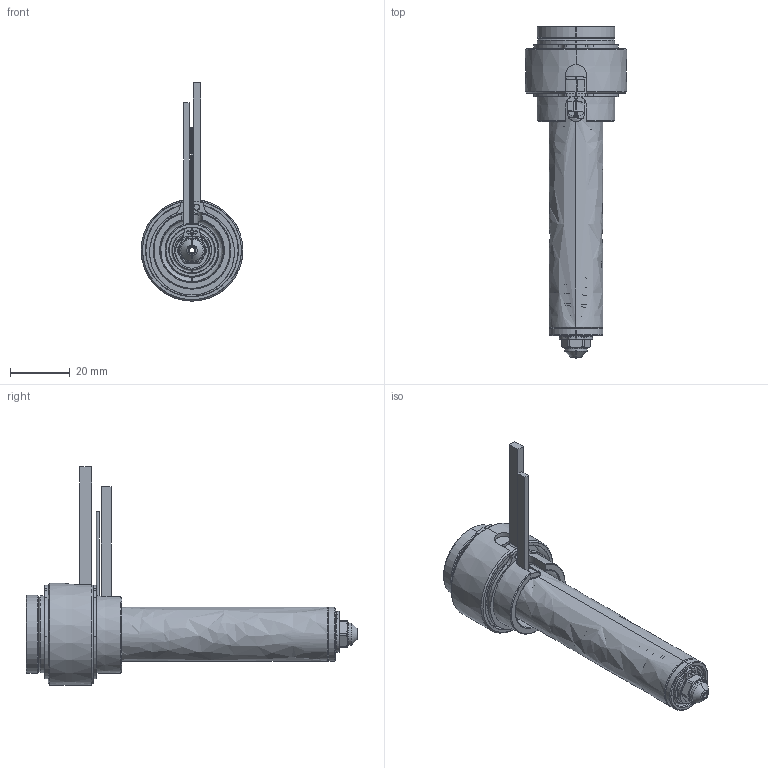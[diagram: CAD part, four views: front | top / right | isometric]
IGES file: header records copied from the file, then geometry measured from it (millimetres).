
Start section: SolidWorks IGES file using analytic representation for surfaces
Global section: file name: C:\Documents and Settings\ws-20\Desktop\TEM\UGER2503-S-A-1 [Øb-1.90 ØC-5.0].IGS; native system: SolidWorks 2012; preprocessor: SolidWorks 2012; author: ws-20; date: 120405.105325; units: millimetre
Bounding box: 34 x 110.9 x 72.9 mm (x, y, z)
Surface area: 28663.5 mm2 (no closed solid volume)
Topology: 0 solids, 0 shells, 207 faces, 2781 edges, 2781 vertices
Faces by surface type: revolution 133, bspline 74
